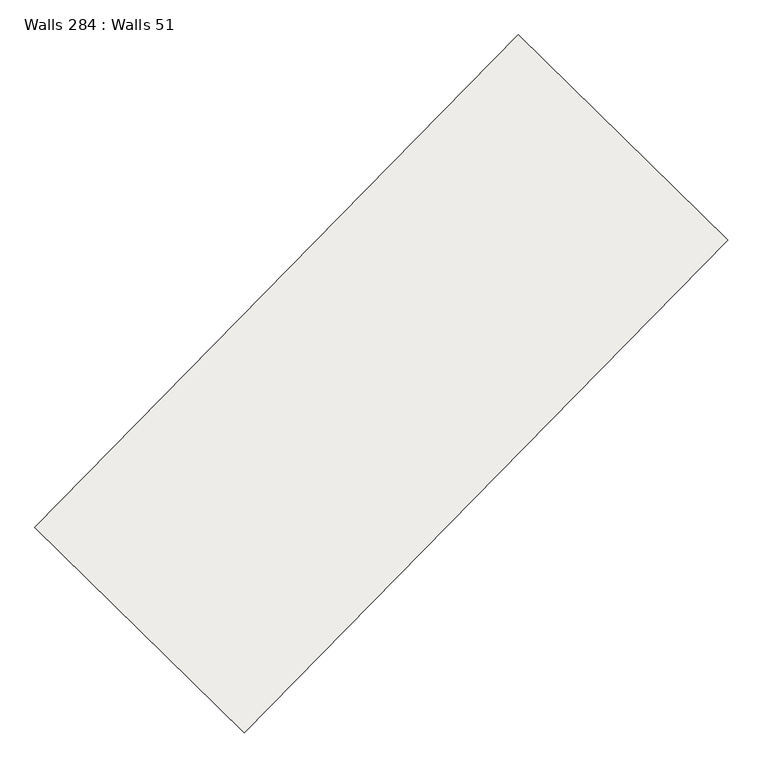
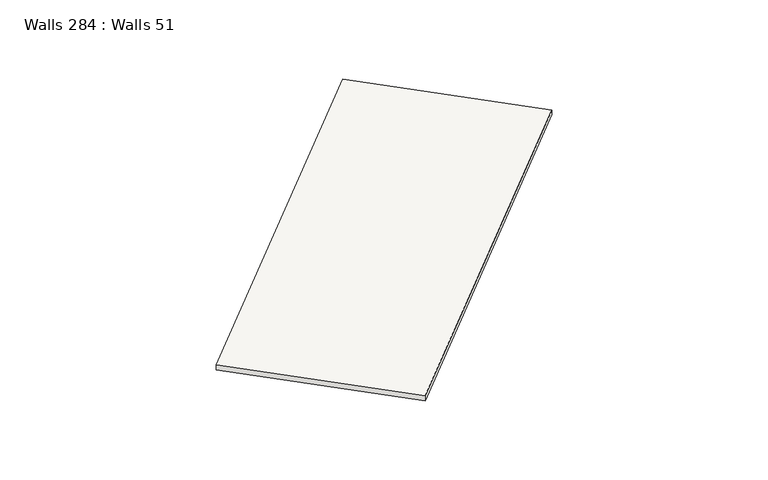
"""IFC4 building model written with IfcOpenShell, lengths in millimetres: slab geometry, Walls 284 : Walls 51."""

from ifc_helpers import new_model, si_unit, frame, origin, place, context, project, spatial, polyline, outline, extrude, source, transform, mapped, element, save


def walls_284_walls_51_fa388d85(model_context):
    return source(origin(), model_context, "Body", "SweptSolid", [
        extrude(outline(polyline([(-50.0, 0.0), (50.0, 0.0), (-40.0, -8700.0000009), (-140.0, -8700.0000009), (-50.0, 0.0)])), frame((-73073.4828695, -233808.204901, 636980.0), z_axis=(-0.7137361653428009, 0.7004146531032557, 0.0), x_axis=(0.0, 0.0, 1.0)), (0.0, 0.0, 1.0), 3699.999995),
    ])


if __name__ == "__main__":
    model = new_model("IFC4")
    model_context = context("Model", 3, world=origin())
    ifc_project = project(units=[si_unit("LENGTHUNIT", "METRE", prefix="MILLI")], contexts=[model_context])
    site = spatial("IfcSite", under=ifc_project)
    building = spatial("IfcBuilding", under=site)
    placement = place(None, origin())
    walls_284_walls_51_shape = walls_284_walls_51_fa388d85(model_context)
    element("IfcSlab", 1, ObjectType="Walls 284 : Walls 51", at=placement, inside=building, context=model_context, shape_type="MappedRepresentation", body=[
        mapped(walls_284_walls_51_shape, transform((0.0, 0.0, 0.0), x_axis=(1.0, 0.0, 0.0), y_axis=(0.0, 1.0, 0.0), z_axis=(0.0, 0.0, 1.0))),
    ])
    save(model, "model.ifc")
